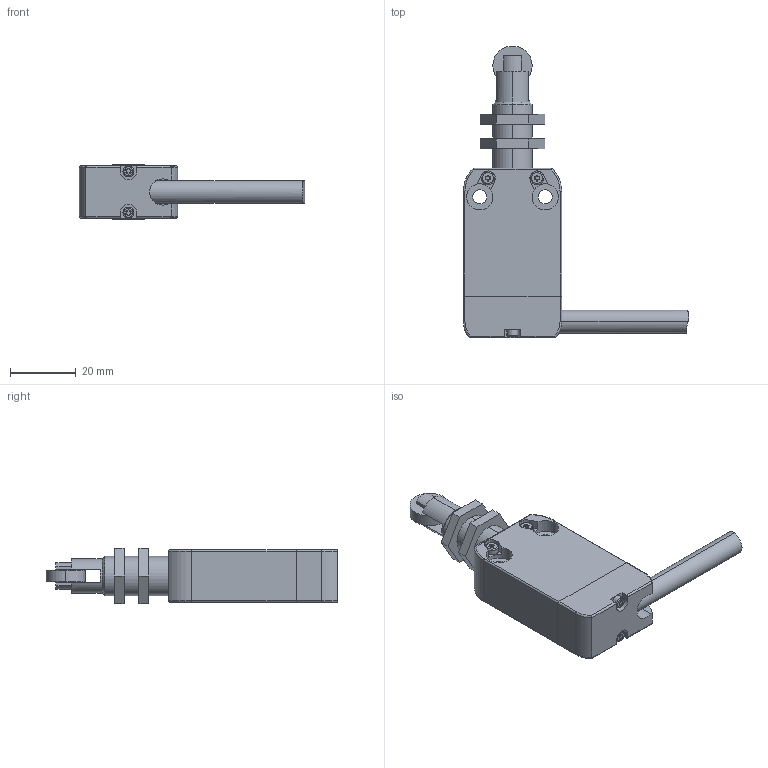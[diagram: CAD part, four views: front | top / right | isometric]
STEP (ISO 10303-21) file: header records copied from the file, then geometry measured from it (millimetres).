
FILE_DESCRIPTION (( 'STEP AP203' ), '1' );
FILE_NAME ('ZF_STEP_NF_xxx0FB-DNx.STEP', '2026-10-01T13:44:50', ( '' ), ( '' ), 'SwSTEP 2.0', 'SolidWorks 2023', '' );
FILE_SCHEMA (( 'CONFIG_CONTROL_DESIGN' ));
Length unit declared in the file: millimetre
Products named in the file (8): Pizzato_custodia_NA-NF_default; Pizzato_custodia_NA-NF; ZF_STEP_VN_AA0FB; ZF_STEP_VN_CxxxDNx; Pizzato_VN_A00FB; ZF_STEP_NF_xxx0FB-DNx; Pizzato_Dado_35_35; Pizzato_VN_CxxxDNx_default
Assembly tree (8 placements, depth 3):
  ZF_STEP_NF_xxx0FB-DNx
    Pizzato_custodia_NA-NF
      Pizzato_custodia_NA-NF_default
    ZF_STEP_VN_AA0FB
      Pizzato_VN_A00FB
      Pizzato_Dado_35_35  x2
    ZF_STEP_VN_CxxxDNx
      Pizzato_VN_CxxxDNx_default
Bounding box: 68.74 x 89 x 17 mm (x, y, z)
Volume: 28531.7 mm3; surface area: 11726.6 mm2
Topology: 5 solids, 5 shells, 530 faces, 1385 edges, 914 vertices
Faces by surface type: plane 269, cylinder 135, bspline 108, torus 16, cone 2
Entity records: 20634 total; most frequent: CARTESIAN_POINT 7409, ORIENTED_EDGE 2722, DIRECTION 2274, EDGE_CURVE 1361, VERTEX_POINT 898, LINE 840, VECTOR 840, AXIS2_PLACEMENT_3D 717
